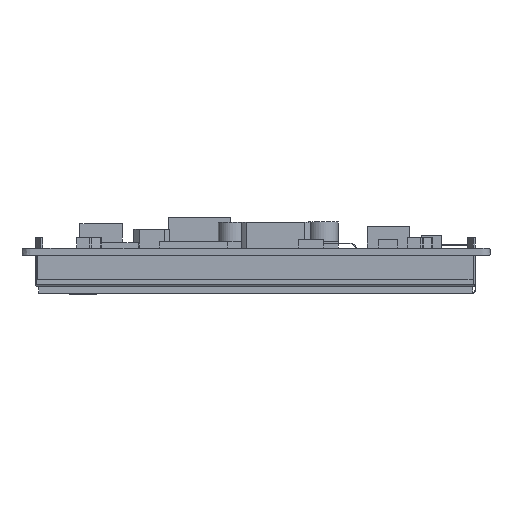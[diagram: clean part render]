
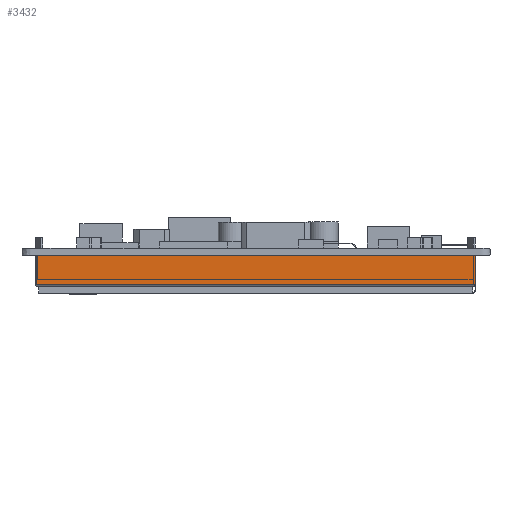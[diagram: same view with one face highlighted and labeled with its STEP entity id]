
A CAD part, left-side view. The second image highlights one B-rep face of the part: STEP entity #3432.
In plain terms, the highlighted planar face has unit normal (-1, 0, 0).
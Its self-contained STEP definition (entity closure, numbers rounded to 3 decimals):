
#3432=ADVANCED_FACE('',(#7373),#5403,.F.);
#5403=PLANE('',#41436);
#7373=FACE_OUTER_BOUND('',#9499,.T.);
#9499=EDGE_LOOP('',(#19280,#19281,#19282,#19283));
#19280=ORIENTED_EDGE('',*,*,#28083,.F.);
#19281=ORIENTED_EDGE('',*,*,#28084,.T.);
#19282=ORIENTED_EDGE('',*,*,#28085,.T.);
#19283=ORIENTED_EDGE('',*,*,#28086,.T.);
#23042=VERTEX_POINT('',#61880);
#23043=VERTEX_POINT('',#61881);
#23044=VERTEX_POINT('',#61883);
#23045=VERTEX_POINT('',#61885);
#28083=EDGE_CURVE('',#23042,#23043,#33685,.T.);
#28084=EDGE_CURVE('',#23042,#23044,#33686,.T.);
#28085=EDGE_CURVE('',#23044,#23045,#33687,.T.);
#28086=EDGE_CURVE('',#23045,#23043,#33688,.T.);
#33685=LINE('',#61879,#38687);
#33686=LINE('',#61882,#38688);
#33687=LINE('',#61884,#38689);
#33688=LINE('',#61886,#38690);
#38687=VECTOR('',#50165,1.);
#38688=VECTOR('',#50166,1.);
#38689=VECTOR('',#50167,1.);
#38690=VECTOR('',#50168,1.);
#41436=AXIS2_PLACEMENT_3D('',#61887,#50169,#50170);
#50165=DIRECTION('',(0.,0.,1.));
#50166=DIRECTION('',(0.,-1.,0.));
#50167=DIRECTION('',(0.,0.,1.));
#50168=DIRECTION('',(0.,1.,0.));
#50169=DIRECTION('',(1.,0.,0.));
#50170=DIRECTION('',(0.,0.,-1.));
#61879=CARTESIAN_POINT('',(173.525,30.57,-8.8));
#61880=CARTESIAN_POINT('',(173.525,30.57,-8.3));
#61881=CARTESIAN_POINT('',(173.525,30.57,-1.6));
#61882=CARTESIAN_POINT('',(173.525,-70.43,-8.3));
#61883=CARTESIAN_POINT('',(173.525,-70.43,-8.3));
#61884=CARTESIAN_POINT('',(173.525,-70.43,-8.8));
#61885=CARTESIAN_POINT('',(173.525,-70.43,-1.6));
#61886=CARTESIAN_POINT('',(173.525,-70.43,-1.6));
#61887=CARTESIAN_POINT('',(173.525,-70.43,-8.8));
